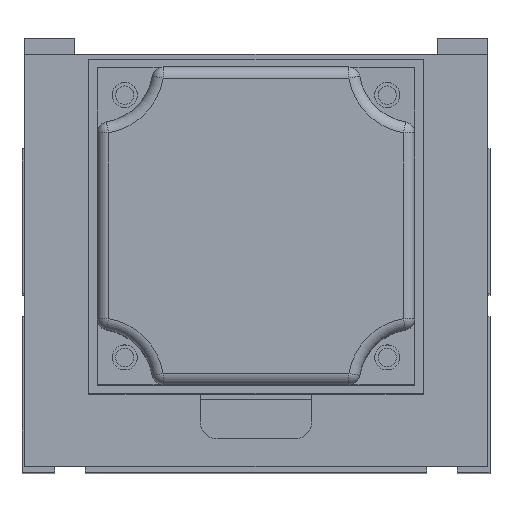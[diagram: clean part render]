
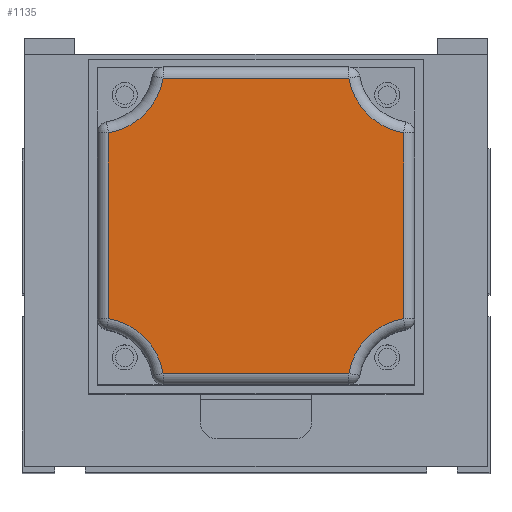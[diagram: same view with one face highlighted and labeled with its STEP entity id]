
A CAD part, top view. The second image highlights one B-rep face of the part: STEP entity #1135.
In plain terms, the highlighted planar face has unit normal (0, 0, 1).
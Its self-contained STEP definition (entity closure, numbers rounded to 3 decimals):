
#997 = VERTEX_POINT ( 'NONE', #6951 ) ;
#1011 = VERTEX_POINT ( 'NONE', #7005 ) ;
#1028 = VERTEX_POINT ( 'NONE', #6984 ) ;
#1031 = VERTEX_POINT ( 'NONE', #7025 ) ;
#1034 = VERTEX_POINT ( 'NONE', #7019 ) ;
#1035 = ORIENTED_EDGE ( 'NONE', *, *, #1051, .T. ) ;
#1036 = VERTEX_POINT ( 'NONE', #7020 ) ;
#1037 = VERTEX_POINT ( 'NONE', #7017 ) ;
#1051 = EDGE_CURVE ( 'NONE', #1011, #1031, #7067, .T. ) ;
#1053 = EDGE_CURVE ( 'NONE', #1036, #997, #7053, .T. ) ;
#1077 = ORIENTED_EDGE ( 'NONE', *, *, #1078, .T. ) ;
#1078 = EDGE_CURVE ( 'NONE', #1028, #1036, #7139, .T. ) ;
#1105 = EDGE_CURVE ( 'NONE', #1037, #1028, #7191, .T. ) ;
#1108 = ORIENTED_EDGE ( 'NONE', *, *, #1138, .T. ) ;
#1110 = ORIENTED_EDGE ( 'NONE', *, *, #1105, .T. ) ;
#1135 = ADVANCED_FACE ( 'NONE', ( #7203 ), #7218, .T. ) ;
#1138 = EDGE_CURVE ( 'NONE', #1139, #1037, #7259, .T. ) ;
#1139 = VERTEX_POINT ( 'NONE', #7209 ) ;
#1140 = EDGE_LOOP ( 'NONE', ( #1108, #1110, #1077, #1257, #1202, #1035, #1250, #1201 ) ) ;
#1201 = ORIENTED_EDGE ( 'NONE', *, *, #1242, .T. ) ;
#1202 = ORIENTED_EDGE ( 'NONE', *, *, #1261, .T. ) ;
#1242 = EDGE_CURVE ( 'NONE', #1034, #1139, #7420, .T. ) ;
#1246 = EDGE_CURVE ( 'NONE', #1031, #1034, #7409, .T. ) ;
#1250 = ORIENTED_EDGE ( 'NONE', *, *, #1246, .T. ) ;
#1257 = ORIENTED_EDGE ( 'NONE', *, *, #1053, .T. ) ;
#1261 = EDGE_CURVE ( 'NONE', #997, #1011, #7450, .T. ) ;
#6951 = CARTESIAN_POINT ( 'NONE',  ( 24.832, 16.5, 151.5 ) ) ;
#6984 = CARTESIAN_POINT ( 'NONE',  ( 15., 59.668, 151.5 ) ) ;
#7005 = CARTESIAN_POINT ( 'NONE',  ( 58.168, 16.5, 151.5 ) ) ;
#7017 = CARTESIAN_POINT ( 'NONE',  ( 24.832, 69.5, 151.5 ) ) ;
#7019 = CARTESIAN_POINT ( 'NONE',  ( 68., 59.668, 151.5 ) ) ;
#7020 = CARTESIAN_POINT ( 'NONE',  ( 15., 26.332, 151.5 ) ) ;
#7025 = CARTESIAN_POINT ( 'NONE',  ( 68., 26.332, 151.5 ) ) ;
#7028 = AXIS2_PLACEMENT_3D ( 'NONE', #7060, #7106, #7105 ) ;
#7048 = CARTESIAN_POINT ( 'NONE',  ( 13., 14.5, 151.5 ) ) ;
#7053 = CIRCLE ( 'NONE', #7057, 12. ) ;
#7057 = AXIS2_PLACEMENT_3D ( 'NONE', #7048, #7101, #7100 ) ;
#7060 = CARTESIAN_POINT ( 'NONE',  ( 70., 14.5, 151.5 ) ) ;
#7067 = CIRCLE ( 'NONE', #7028, 12. ) ;
#7100 = DIRECTION ( 'NONE',  ( 1., 0., 0. ) ) ;
#7101 = DIRECTION ( 'NONE',  ( 0., 0., -1. ) ) ;
#7105 = DIRECTION ( 'NONE',  ( 1., 0., 0. ) ) ;
#7106 = DIRECTION ( 'NONE',  ( 0., 0., -1. ) ) ;
#7117 = DIRECTION ( 'NONE',  ( 0., -1., 0. ) ) ;
#7118 = VECTOR ( 'NONE', #7117, 1000. ) ;
#7138 = CARTESIAN_POINT ( 'NONE',  ( 15., 24.5, 151.5 ) ) ;
#7139 = LINE ( 'NONE', #7138, #7118 ) ;
#7175 = DIRECTION ( 'NONE',  ( 1., 0., 0. ) ) ;
#7176 = AXIS2_PLACEMENT_3D ( 'NONE', #7181, #7189, #7175 ) ;
#7181 = CARTESIAN_POINT ( 'NONE',  ( 13., 71.5, 151.5 ) ) ;
#7189 = DIRECTION ( 'NONE',  ( 0., 0., -1. ) ) ;
#7191 = CIRCLE ( 'NONE', #7176, 12. ) ;
#7203 = FACE_OUTER_BOUND ( 'NONE', #1140, .T. ) ;
#7209 = CARTESIAN_POINT ( 'NONE',  ( 58.168, 69.5, 151.5 ) ) ;
#7218 = PLANE ( 'NONE',  #7263 ) ;
#7253 = DIRECTION ( 'NONE',  ( -1., 0., 0. ) ) ;
#7254 = VECTOR ( 'NONE', #7253, 1000. ) ;
#7255 = DIRECTION ( 'NONE',  ( 1., 0., 0. ) ) ;
#7256 = DIRECTION ( 'NONE',  ( 0., 0., 1. ) ) ;
#7257 = CARTESIAN_POINT ( 'NONE',  ( 70., 71.5, 151.5 ) ) ;
#7258 = CARTESIAN_POINT ( 'NONE',  ( 23., 69.5, 151.5 ) ) ;
#7259 = LINE ( 'NONE', #7258, #7254 ) ;
#7263 = AXIS2_PLACEMENT_3D ( 'NONE', #7257, #7256, #7255 ) ;
#7372 = CARTESIAN_POINT ( 'NONE',  ( 70., 71.5, 151.5 ) ) ;
#7406 = DIRECTION ( 'NONE',  ( 0., 1., 0. ) ) ;
#7407 = VECTOR ( 'NONE', #7406, 1000. ) ;
#7408 = CARTESIAN_POINT ( 'NONE',  ( 68., 61.5, 151.5 ) ) ;
#7409 = LINE ( 'NONE', #7408, #7407 ) ;
#7411 = DIRECTION ( 'NONE',  ( 1., 0., 0. ) ) ;
#7412 = DIRECTION ( 'NONE',  ( 0., 0., -1. ) ) ;
#7420 = CIRCLE ( 'NONE', #7422, 12. ) ;
#7422 = AXIS2_PLACEMENT_3D ( 'NONE', #7372, #7412, #7411 ) ;
#7447 = DIRECTION ( 'NONE',  ( 1., 0., 0. ) ) ;
#7448 = VECTOR ( 'NONE', #7447, 1000. ) ;
#7449 = CARTESIAN_POINT ( 'NONE',  ( 60., 16.5, 151.5 ) ) ;
#7450 = LINE ( 'NONE', #7449, #7448 ) ;
